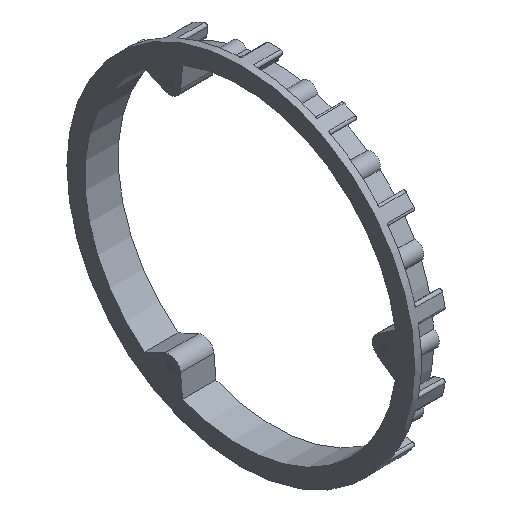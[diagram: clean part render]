
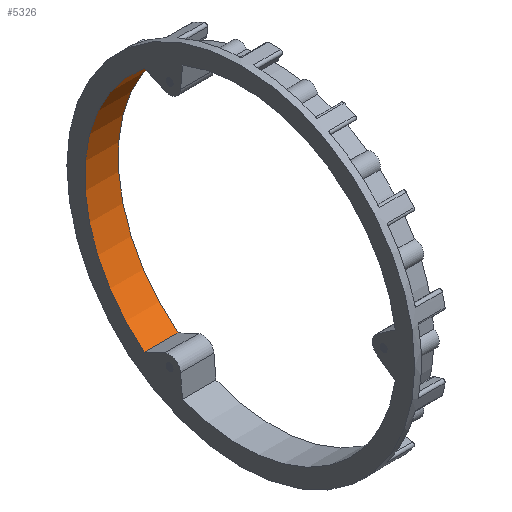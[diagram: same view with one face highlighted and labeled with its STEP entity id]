
A CAD part, isometric view. The second image highlights one B-rep face of the part: STEP entity #5326.
In plain terms, the highlighted cylindrical face has radius 70 mm (diameter 140 mm), a partial arc.
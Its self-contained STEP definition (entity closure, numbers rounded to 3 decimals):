
#248=FACE_OUTER_BOUND('',#535,.T.);
#535=EDGE_LOOP('',(#4202,#4203,#4204,#4205));
#681=CIRCLE('',#5642,70.);
#682=CIRCLE('',#5643,70.);
#1324=LINE('',#17370,#1661);
#1328=LINE('',#17384,#1665);
#1661=VECTOR('',#6448,10.);
#1665=VECTOR('',#6464,10.);
#2166=VERTEX_POINT('',#17364);
#2168=VERTEX_POINT('',#17368);
#2171=VERTEX_POINT('',#17381);
#2172=VERTEX_POINT('',#17383);
#2890=EDGE_CURVE('',#2166,#2168,#1324,.T.);
#2896=EDGE_CURVE('',#2171,#2168,#681,.T.);
#2897=EDGE_CURVE('',#2171,#2172,#1328,.T.);
#2898=EDGE_CURVE('',#2166,#2172,#682,.T.);
#4202=ORIENTED_EDGE('',*,*,#2890,.T.);
#4203=ORIENTED_EDGE('',*,*,#2896,.F.);
#4204=ORIENTED_EDGE('',*,*,#2897,.T.);
#4205=ORIENTED_EDGE('',*,*,#2898,.F.);
#5086=CYLINDRICAL_SURFACE('',#5641,70.);
#5326=ADVANCED_FACE('',(#248),#5086,.F.);
#5641=AXIS2_PLACEMENT_3D('',#17380,#6460,#6461);
#5642=AXIS2_PLACEMENT_3D('',#17382,#6462,#6463);
#5643=AXIS2_PLACEMENT_3D('',#17385,#6465,#6466);
#6448=DIRECTION('',(1.,0.,0.));
#6460=DIRECTION('center_axis',(1.,0.,0.));
#6461=DIRECTION('ref_axis',(0.,1.,0.));
#6462=DIRECTION('center_axis',(-1.,0.,0.));
#6463=DIRECTION('ref_axis',(0.,-1.,0.));
#6464=DIRECTION('',(-1.,0.,0.));
#6465=DIRECTION('center_axis',(1.,0.,0.));
#6466=DIRECTION('ref_axis',(0.,-1.,0.));
#17364=CARTESIAN_POINT('',(-180.,43.159,-41.112));
#17368=CARTESIAN_POINT('',(-165.,43.159,-41.112));
#17370=CARTESIAN_POINT('',(-180.,43.159,-41.112));
#17380=CARTESIAN_POINT('Origin',(-180.,0.,
14.));
#17381=CARTESIAN_POINT('',(-165.,43.159,69.112));
#17382=CARTESIAN_POINT('Origin',(-165.,0.,
14.));
#17383=CARTESIAN_POINT('',(-180.,43.159,69.112));
#17384=CARTESIAN_POINT('',(-180.,43.159,69.112));
#17385=CARTESIAN_POINT('Origin',(-180.,0.,
14.));
